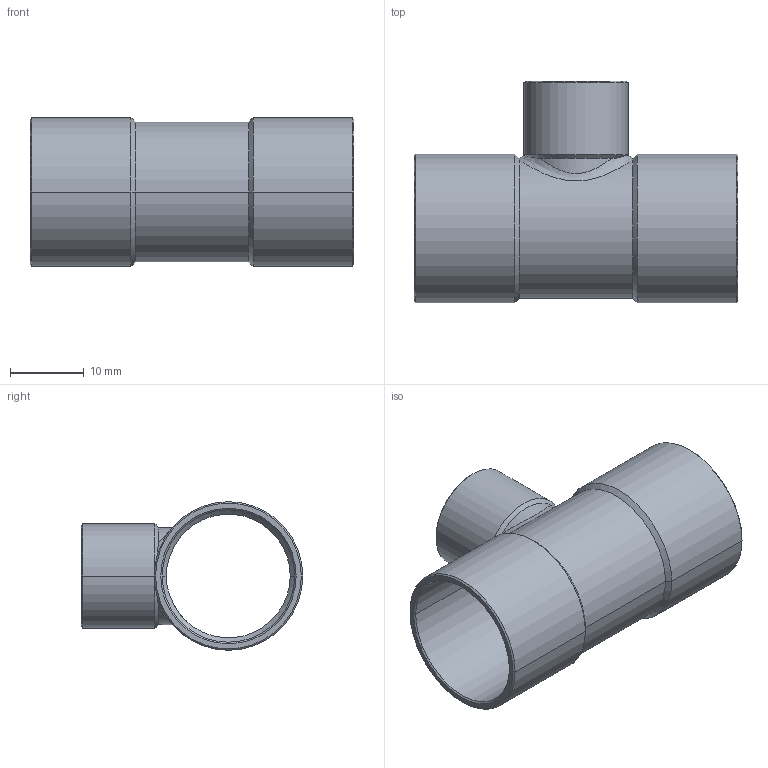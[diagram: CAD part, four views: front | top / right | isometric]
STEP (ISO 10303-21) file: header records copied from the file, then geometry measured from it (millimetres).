
FILE_DESCRIPTION((''),'2;1');
FILE_NAME('P:\Bouwmaten\z-maattekeningen 3D\5000\5130\5130181218.stp','2005-10-26T11:53:23',('Kris'),(''),'Autodesk Inventor 8','Autodesk Inventor 8','');
FILE_SCHEMA(('AUTOMOTIVE_DESIGN { 1 0 10303 214 1 1 1 1 }'));
Length unit declared in the file: millimetre
Products named in the file (1): 5130181218
Bounding box: 44 x 30.1 x 20.2 mm (x, y, z)
Volume: 3200.6 mm3; surface area: 6081.4 mm2
Topology: 1 solids, 1 shells, 49 faces, 116 edges, 68 vertices
Faces by surface type: cone 20, cylinder 16, bspline 10, plane 3
Entity records: 2033 total; most frequent: CARTESIAN_POINT 933, ORIENTED_EDGE 232, DIRECTION 216, EDGE_CURVE 116, AXIS2_PLACEMENT_3D 89, VERTEX_POINT 68, EDGE_LOOP 52, CIRCLE 49
